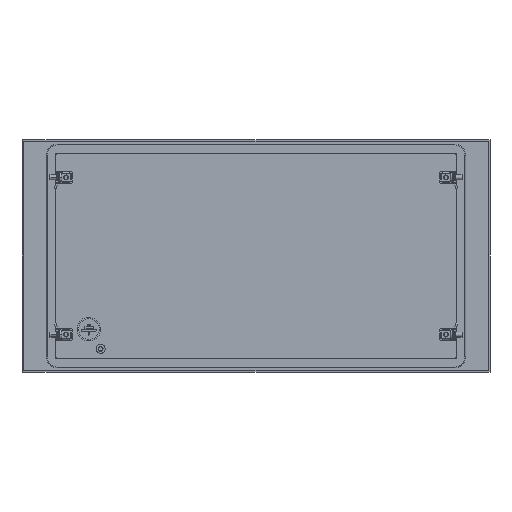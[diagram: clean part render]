
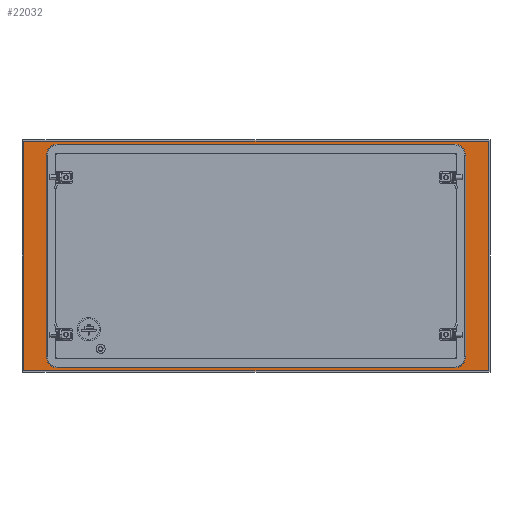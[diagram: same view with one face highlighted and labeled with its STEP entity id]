
A CAD part, left-side view. The second image highlights one B-rep face of the part: STEP entity #22032.
In plain terms, the highlighted planar face has unit normal (-1, 0, 0).
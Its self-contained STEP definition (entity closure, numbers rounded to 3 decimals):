
#175 = VECTOR ( 'NONE', #5249, 1000. ) ;
#430 = CARTESIAN_POINT ( 'NONE',  ( -2., 295.5, 146. ) ) ;
#893 = DIRECTION ( 'NONE',  ( 0., 0., -1. ) ) ;
#903 = DIRECTION ( 'NONE',  ( 0., -1., 0. ) ) ;
#920 = CARTESIAN_POINT ( 'NONE',  ( -2., -295.5, -146. ) ) ;
#1402 = CARTESIAN_POINT ( 'NONE',  ( -2., 0., -146. ) ) ;
#1412 = EDGE_LOOP ( 'NONE', ( #2913, #23356, #6031, #1459 ) ) ;
#1459 = ORIENTED_EDGE ( 'NONE', *, *, #24530, .T. ) ;
#2064 = CARTESIAN_POINT ( 'NONE',  ( -2., 252.5, 128. ) ) ;
#2145 = EDGE_CURVE ( 'NONE', #11466, #2788, #15776, .T. ) ;
#2190 = DIRECTION ( 'NONE',  ( 0., 0., 1. ) ) ;
#2443 = DIRECTION ( 'NONE',  ( 0., 0., 1. ) ) ;
#2507 = PLANE ( 'NONE',  #14671 ) ;
#2782 = CARTESIAN_POINT ( 'NONE',  ( -2., 266.5, -128. ) ) ;
#2788 = VERTEX_POINT ( 'NONE', #8125 ) ;
#2913 = ORIENTED_EDGE ( 'NONE', *, *, #20825, .T. ) ;
#3135 = CARTESIAN_POINT ( 'NONE',  ( -2., 252.5, 142. ) ) ;
#3196 = DIRECTION ( 'NONE',  ( 0., -1., 0. ) ) ;
#3546 = VERTEX_POINT ( 'NONE', #2782 ) ;
#3903 = VECTOR ( 'NONE', #18835, 1000. ) ;
#4120 = DIRECTION ( 'NONE',  ( -1., 0., 0. ) ) ;
#4414 = VERTEX_POINT ( 'NONE', #430 ) ;
#4526 = ORIENTED_EDGE ( 'NONE', *, *, #5593, .F. ) ;
#4703 = FACE_BOUND ( 'NONE', #19385, .T. ) ;
#5058 = AXIS2_PLACEMENT_3D ( 'NONE', #16270, #8328, #903 ) ;
#5249 = DIRECTION ( 'NONE',  ( 0., 0., -1. ) ) ;
#5593 = EDGE_CURVE ( 'NONE', #13565, #13814, #21319, .T. ) ;
#5831 = CARTESIAN_POINT ( 'NONE',  ( -2., 295.5, -146. ) ) ;
#6031 = ORIENTED_EDGE ( 'NONE', *, *, #16379, .T. ) ;
#6126 = VERTEX_POINT ( 'NONE', #17367 ) ;
#6373 = DIRECTION ( 'NONE',  ( 1., 0., 0. ) ) ;
#6461 = CARTESIAN_POINT ( 'NONE',  ( -2., -252.5, 128. ) ) ;
#6618 = CARTESIAN_POINT ( 'NONE',  ( -2., 0., 0. ) ) ;
#6921 = CARTESIAN_POINT ( 'NONE',  ( -2., -266.5, 0. ) ) ;
#7408 = EDGE_CURVE ( 'NONE', #3546, #2788, #10128, .T. ) ;
#7723 = AXIS2_PLACEMENT_3D ( 'NONE', #12841, #11060, #17074 ) ;
#8078 = CARTESIAN_POINT ( 'NONE',  ( -2., -266.5, 128. ) ) ;
#8125 = CARTESIAN_POINT ( 'NONE',  ( -2., 266.5, 128. ) ) ;
#8328 = DIRECTION ( 'NONE',  ( 1., 0., 0. ) ) ;
#8645 = AXIS2_PLACEMENT_3D ( 'NONE', #6461, #22178, #17976 ) ;
#8801 = VERTEX_POINT ( 'NONE', #5831 ) ;
#8916 = ORIENTED_EDGE ( 'NONE', *, *, #15278, .T. ) ;
#8988 = VECTOR ( 'NONE', #3196, 1000. ) ;
#9364 = ORIENTED_EDGE ( 'NONE', *, *, #7408, .T. ) ;
#9431 = LINE ( 'NONE', #24895, #10284 ) ;
#9433 = EDGE_CURVE ( 'NONE', #6126, #4414, #9431, .T. ) ;
#9697 = CARTESIAN_POINT ( 'NONE',  ( -2., -252.5, 142. ) ) ;
#9841 = ORIENTED_EDGE ( 'NONE', *, *, #19278, .F. ) ;
#10128 = LINE ( 'NONE', #10380, #12354 ) ;
#10284 = VECTOR ( 'NONE', #16994, 1000. ) ;
#10321 = FACE_OUTER_BOUND ( 'NONE', #1412, .T. ) ;
#10380 = CARTESIAN_POINT ( 'NONE',  ( -2., 266.5, -128. ) ) ;
#10905 = ORIENTED_EDGE ( 'NONE', *, *, #18568, .T. ) ;
#11023 = CARTESIAN_POINT ( 'NONE',  ( -2., -252.5, -142. ) ) ;
#11060 = DIRECTION ( 'NONE',  ( 1., 0., 0. ) ) ;
#11466 = VERTEX_POINT ( 'NONE', #3135 ) ;
#12242 = DIRECTION ( 'NONE',  ( 0., 0., 1. ) ) ;
#12312 = LINE ( 'NONE', #15077, #175 ) ;
#12326 = LINE ( 'NONE', #15447, #18243 ) ;
#12354 = VECTOR ( 'NONE', #2443, 1000. ) ;
#12841 = CARTESIAN_POINT ( 'NONE',  ( -2., 252.5, -128. ) ) ;
#13565 = VERTEX_POINT ( 'NONE', #8078 ) ;
#13721 = EDGE_CURVE ( 'NONE', #19311, #13954, #25160, .T. ) ;
#13814 = VERTEX_POINT ( 'NONE', #9697 ) ;
#13954 = VERTEX_POINT ( 'NONE', #24869 ) ;
#14602 = CARTESIAN_POINT ( 'NONE',  ( -2., -252.5, -142. ) ) ;
#14671 = AXIS2_PLACEMENT_3D ( 'NONE', #6618, #6373, #12242 ) ;
#15077 = CARTESIAN_POINT ( 'NONE',  ( -2., 295.5, 0. ) ) ;
#15078 = CIRCLE ( 'NONE', #7723, 14. ) ;
#15278 = EDGE_CURVE ( 'NONE', #15942, #19311, #23813, .T. ) ;
#15447 = CARTESIAN_POINT ( 'NONE',  ( -2., -252.5, 142. ) ) ;
#15776 = CIRCLE ( 'NONE', #21491, 14. ) ;
#15942 = VERTEX_POINT ( 'NONE', #16048 ) ;
#16048 = CARTESIAN_POINT ( 'NONE',  ( -2., -266.5, -128. ) ) ;
#16270 = CARTESIAN_POINT ( 'NONE',  ( -2., -252.5, -128. ) ) ;
#16379 = EDGE_CURVE ( 'NONE', #4414, #8801, #12312, .T. ) ;
#16994 = DIRECTION ( 'NONE',  ( 0., 1., 0. ) ) ;
#17074 = DIRECTION ( 'NONE',  ( 0., 0., -1. ) ) ;
#17367 = CARTESIAN_POINT ( 'NONE',  ( -2., -295.5, 146. ) ) ;
#17429 = VECTOR ( 'NONE', #893, 1000. ) ;
#17976 = DIRECTION ( 'NONE',  ( 0., -1., 0. ) ) ;
#18144 = VERTEX_POINT ( 'NONE', #920 ) ;
#18243 = VECTOR ( 'NONE', #20135, 1000. ) ;
#18568 = EDGE_CURVE ( 'NONE', #13565, #15942, #24417, .T. ) ;
#18835 = DIRECTION ( 'NONE',  ( 0., 1., 0. ) ) ;
#18948 = LINE ( 'NONE', #1402, #8988 ) ;
#19272 = DIRECTION ( 'NONE',  ( 0., 0., 1. ) ) ;
#19278 = EDGE_CURVE ( 'NONE', #13814, #11466, #12326, .T. ) ;
#19311 = VERTEX_POINT ( 'NONE', #14602 ) ;
#19385 = EDGE_LOOP ( 'NONE', ( #4526, #10905, #8916, #24435, #19417, #9364, #21073, #9841 ) ) ;
#19417 = ORIENTED_EDGE ( 'NONE', *, *, #22650, .T. ) ;
#20135 = DIRECTION ( 'NONE',  ( 0., 1., 0. ) ) ;
#20825 = EDGE_CURVE ( 'NONE', #18144, #6126, #21548, .T. ) ;
#21073 = ORIENTED_EDGE ( 'NONE', *, *, #2145, .F. ) ;
#21319 = CIRCLE ( 'NONE', #8645, 14. ) ;
#21491 = AXIS2_PLACEMENT_3D ( 'NONE', #2064, #4120, #2190 ) ;
#21548 = LINE ( 'NONE', #23332, #24840 ) ;
#22032 = ADVANCED_FACE ( 'NONE', ( #10321, #4703 ), #2507, .F. ) ;
#22178 = DIRECTION ( 'NONE',  ( -1., 0., 0. ) ) ;
#22650 = EDGE_CURVE ( 'NONE', #13954, #3546, #15078, .T. ) ;
#23332 = CARTESIAN_POINT ( 'NONE',  ( -2., -295.5, 0. ) ) ;
#23356 = ORIENTED_EDGE ( 'NONE', *, *, #9433, .T. ) ;
#23813 = CIRCLE ( 'NONE', #5058, 14. ) ;
#24417 = LINE ( 'NONE', #6921, #17429 ) ;
#24435 = ORIENTED_EDGE ( 'NONE', *, *, #13721, .T. ) ;
#24530 = EDGE_CURVE ( 'NONE', #8801, #18144, #18948, .T. ) ;
#24840 = VECTOR ( 'NONE', #19272, 1000. ) ;
#24869 = CARTESIAN_POINT ( 'NONE',  ( -2., 252.5, -142. ) ) ;
#24895 = CARTESIAN_POINT ( 'NONE',  ( -2., 0., 146. ) ) ;
#25160 = LINE ( 'NONE', #11023, #3903 ) ;
